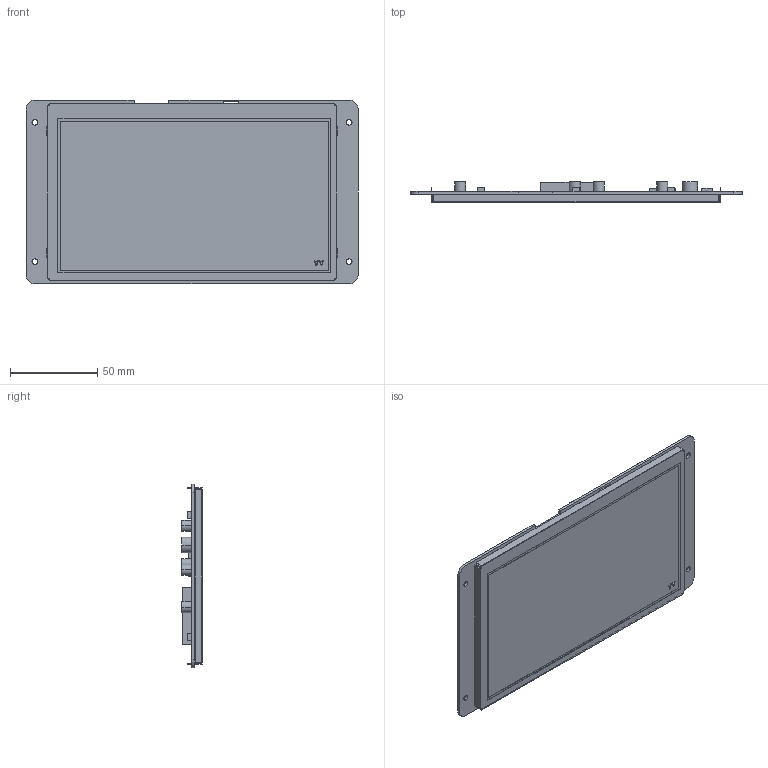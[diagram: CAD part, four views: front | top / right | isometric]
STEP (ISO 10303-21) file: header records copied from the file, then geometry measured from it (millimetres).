
FILE_DESCRIPTION((''),'2;1');
FILE_NAME('DMG80480C070-03WTC_ASM','2023-07-25T',('Administrator'),(''),'PRO/ENGINEER BY PARAMETRIC TECHNOLOGY CORPORATION, 2014320','PRO/ENGINEER BY PARAMETRIC TECHNOLOGY CORPORATION, 2014320','');
FILE_SCHEMA(('CONFIG_CONTROL_DESIGN','SHAPE_APPEARANCE_LAYERS_GROUPS'));
Length unit declared in the file: millimetre
Products named in the file (4): TK070019; LCD_6; PCB-C070-03; DMG80480C070-03WTC_ASM
Assembly tree (3 placements, depth 2):
  DMG80480C070-03WTC_ASM
    TK070019
    LCD_6
    PCB-C070-03
Bounding box: 190.5 x 11.8 x 105.41 mm (x, y, z)
Volume: 97870.8 mm3; surface area: 88355.9 mm2
Topology: 3 solids, 3 shells, 257 faces, 714 edges, 476 vertices
Faces by surface type: plane 197, cylinder 60
Entity records: 10384 total; most frequent: CARTESIAN_POINT 1454, ORIENTED_EDGE 1428, DIRECTION 1362, EDGE_CURVE 714, PRESENTATION_STYLE_ASSIGNMENT 637, STYLED_ITEM 629, CURVE_STYLE 624, VECTOR 594
